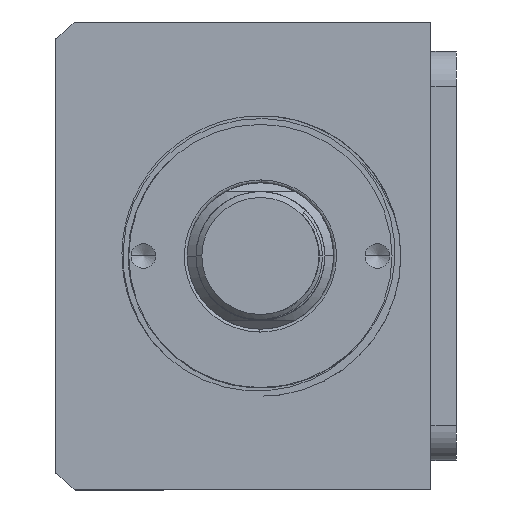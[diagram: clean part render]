
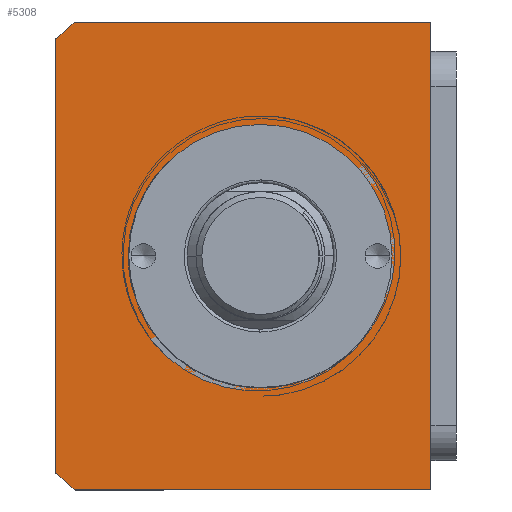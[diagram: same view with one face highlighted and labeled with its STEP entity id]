
A CAD part, front view. The second image highlights one B-rep face of the part: STEP entity #5308.
In plain terms, the highlighted planar face has unit normal (0, -1, 0) as drawn and (0, 0, 1) by its records, which use the part's own axes.
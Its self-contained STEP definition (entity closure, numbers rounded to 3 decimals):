
#335 = VERTEX_POINT ( 'NONE', #10312 ) ;
#390 = CIRCLE ( 'NONE', #3596, 51. ) ;
#523 = CARTESIAN_POINT ( 'NONE',  ( 40., 32., 125. ) ) ;
#689 = DIRECTION ( 'NONE',  ( 0., 0., 1. ) ) ;
#1311 = LINE ( 'NONE', #523, #1746 ) ;
#1344 = CARTESIAN_POINT ( 'NONE',  ( 0., 3., 125. ) ) ;
#1746 = VECTOR ( 'NONE', #11436, 1000. ) ;
#1938 = DIRECTION ( 'NONE',  ( -1., 0., 0. ) ) ;
#2635 = CIRCLE ( 'NONE', #2862, 22.5 ) ;
#2731 = DIRECTION ( 'NONE',  ( 1., 0., 0. ) ) ;
#2735 = CARTESIAN_POINT ( 'NONE',  ( -37.094, -32., 125. ) ) ;
#2862 = AXIS2_PLACEMENT_3D ( 'NONE', #6915, #16422, #8270 ) ;
#2897 = DIRECTION ( 'NONE',  ( 1., 0., 0. ) ) ;
#3175 = ORIENTED_EDGE ( 'NONE', *, *, #15250, .T. ) ;
#3362 = FACE_OUTER_BOUND ( 'NONE', #13217, .T. ) ;
#3596 = AXIS2_PLACEMENT_3D ( 'NONE', #8938, #689, #10296 ) ;
#3644 = VERTEX_POINT ( 'NONE', #2735 ) ;
#3655 = VERTEX_POINT ( 'NONE', #14986 ) ;
#3695 = EDGE_LOOP ( 'NONE', ( #17589, #4748 ) ) ;
#3856 = ORIENTED_EDGE ( 'NONE', *, *, #11465, .T. ) ;
#4168 = AXIS2_PLACEMENT_3D ( 'NONE', #1344, #10931, #2731 ) ;
#4381 = EDGE_CURVE ( 'NONE', #15714, #14393, #2635, .T. ) ;
#4402 = VERTEX_POINT ( 'NONE', #9653 ) ;
#4748 = ORIENTED_EDGE ( 'NONE', *, *, #6363, .F. ) ;
#5023 = DIRECTION ( 'NONE',  ( 0., 0., 1. ) ) ;
#5062 = DIRECTION ( 'NONE',  ( 0., 0., 1. ) ) ;
#5159 = VERTEX_POINT ( 'NONE', #7513 ) ;
#5308 = ADVANCED_FACE ( 'NONE', ( #17480, #3362 ), #10548, .T. ) ;
#5685 = EDGE_CURVE ( 'NONE', #11274, #3655, #12575, .T. ) ;
#5711 = CARTESIAN_POINT ( 'NONE',  ( -40., 32., 125. ) ) ;
#6069 = LINE ( 'NONE', #11513, #12878 ) ;
#6363 = EDGE_CURVE ( 'NONE', #14393, #15714, #10214, .T. ) ;
#6915 = CARTESIAN_POINT ( 'NONE',  ( 0., 3., 125. ) ) ;
#7513 = CARTESIAN_POINT ( 'NONE',  ( 40., 32., 125. ) ) ;
#7664 = CIRCLE ( 'NONE', #9450, 51. ) ;
#8270 = DIRECTION ( 'NONE',  ( 1., 0., 0. ) ) ;
#8786 = ORIENTED_EDGE ( 'NONE', *, *, #17761, .T. ) ;
#8938 = CARTESIAN_POINT ( 'NONE',  ( 0., 3., 125. ) ) ;
#9184 = CARTESIAN_POINT ( 'NONE',  ( 0., 0., 125. ) ) ;
#9450 = AXIS2_PLACEMENT_3D ( 'NONE', #13176, #5023, #14543 ) ;
#9653 = CARTESIAN_POINT ( 'NONE',  ( 40., -28.639, 125. ) ) ;
#10214 = CIRCLE ( 'NONE', #4168, 22.5 ) ;
#10296 = DIRECTION ( 'NONE',  ( 1., 0., 0. ) ) ;
#10312 = CARTESIAN_POINT ( 'NONE',  ( 37.094, -32., 125. ) ) ;
#10548 = PLANE ( 'NONE',  #10701 ) ;
#10632 = EDGE_CURVE ( 'NONE', #3644, #335, #10970, .T. ) ;
#10701 = AXIS2_PLACEMENT_3D ( 'NONE', #9184, #5062, #11889 ) ;
#10835 = ORIENTED_EDGE ( 'NONE', *, *, #10632, .T. ) ;
#10926 = EDGE_CURVE ( 'NONE', #5159, #11274, #6069, .T. ) ;
#10931 = DIRECTION ( 'NONE',  ( 0., 0., 1. ) ) ;
#10970 = LINE ( 'NONE', #11101, #15024 ) ;
#11101 = CARTESIAN_POINT ( 'NONE',  ( -40., -32., 125. ) ) ;
#11163 = CARTESIAN_POINT ( 'NONE',  ( -22.5, 3., 125. ) ) ;
#11274 = VERTEX_POINT ( 'NONE', #15201 ) ;
#11386 = CARTESIAN_POINT ( 'NONE',  ( 22.5, 3., 125. ) ) ;
#11400 = ORIENTED_EDGE ( 'NONE', *, *, #10926, .T. ) ;
#11436 = DIRECTION ( 'NONE',  ( 0., 1., 0. ) ) ;
#11465 = EDGE_CURVE ( 'NONE', #4402, #5159, #1311, .T. ) ;
#11513 = CARTESIAN_POINT ( 'NONE',  ( -40., 32., 125. ) ) ;
#11889 = DIRECTION ( 'NONE',  ( 1., 0., 0. ) ) ;
#12487 = DIRECTION ( 'NONE',  ( 0., -1., 0. ) ) ;
#12575 = LINE ( 'NONE', #5711, #15753 ) ;
#12878 = VECTOR ( 'NONE', #1938, 1000. ) ;
#13176 = CARTESIAN_POINT ( 'NONE',  ( 0., 3., 125. ) ) ;
#13217 = EDGE_LOOP ( 'NONE', ( #13222, #8786, #10835, #3175, #3856, #11400 ) ) ;
#13222 = ORIENTED_EDGE ( 'NONE', *, *, #5685, .T. ) ;
#14393 = VERTEX_POINT ( 'NONE', #11163 ) ;
#14543 = DIRECTION ( 'NONE',  ( 1., 0., 0. ) ) ;
#14986 = CARTESIAN_POINT ( 'NONE',  ( -40., -28.639, 125. ) ) ;
#15024 = VECTOR ( 'NONE', #2897, 1000. ) ;
#15201 = CARTESIAN_POINT ( 'NONE',  ( -40., 32., 125. ) ) ;
#15250 = EDGE_CURVE ( 'NONE', #335, #4402, #7664, .T. ) ;
#15714 = VERTEX_POINT ( 'NONE', #11386 ) ;
#15753 = VECTOR ( 'NONE', #12487, 1000. ) ;
#16422 = DIRECTION ( 'NONE',  ( 0., 0., 1. ) ) ;
#17480 = FACE_BOUND ( 'NONE', #3695, .T. ) ;
#17589 = ORIENTED_EDGE ( 'NONE', *, *, #4381, .F. ) ;
#17761 = EDGE_CURVE ( 'NONE', #3655, #3644, #390, .T. ) ;
